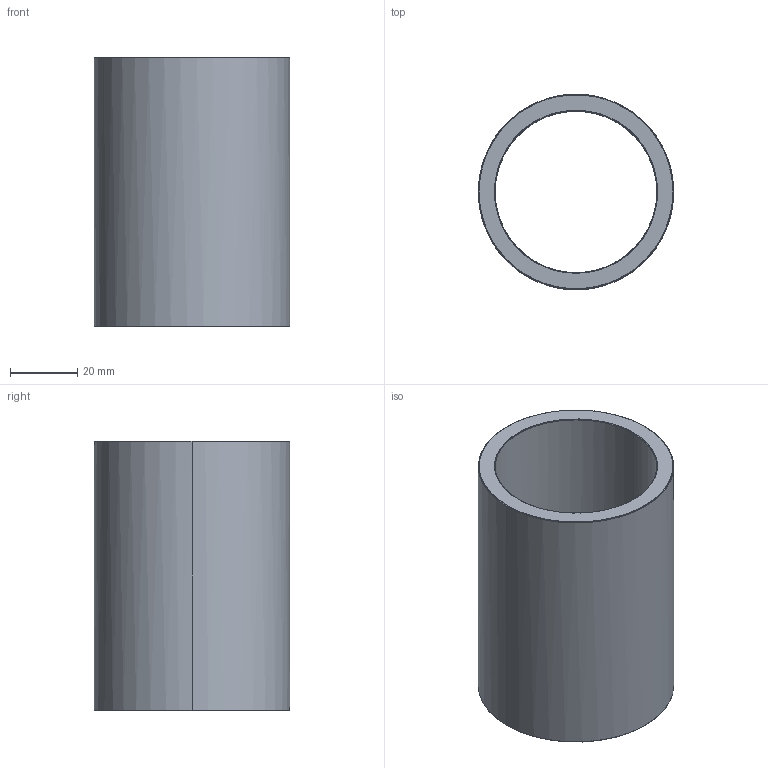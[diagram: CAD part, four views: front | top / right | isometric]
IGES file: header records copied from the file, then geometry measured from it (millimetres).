
Start section: Write IGES format                                    datakit 2008 (c)
Global section: file name: Unknown; native system: DATAKIT Converter; preprocessor: Unknown; author: Unknown; organization: Unknown; date: 950613.180003; units: millimetre
Bounding box: 58 x 57.93 x 80 mm (x, y, z)
Surface area: 28227.7 mm2 (no closed solid volume)
Topology: 0 solids, 0 shells, 14 faces, 56 edges, 56 vertices
Faces by surface type: revolution 12, bspline 2
